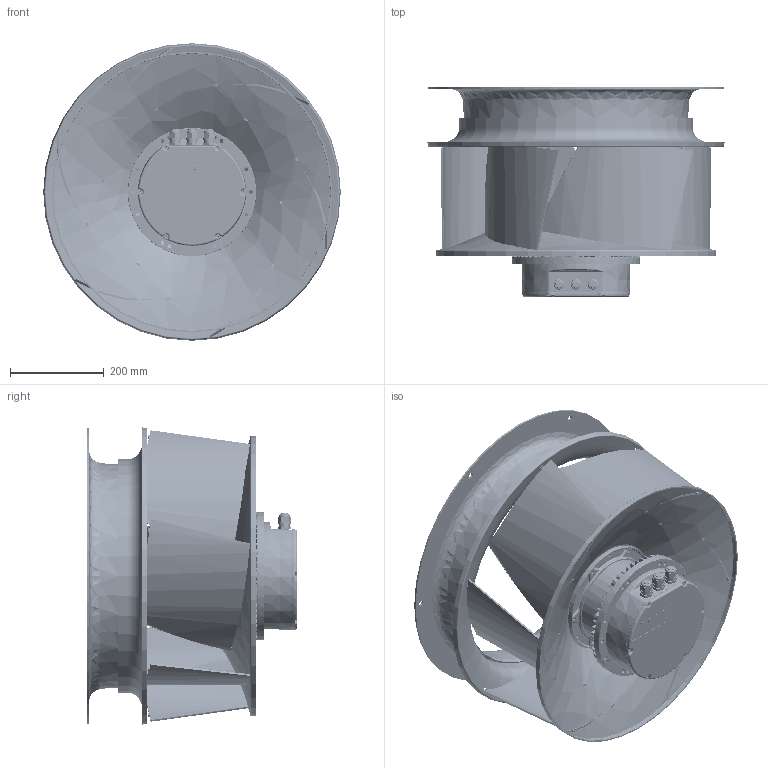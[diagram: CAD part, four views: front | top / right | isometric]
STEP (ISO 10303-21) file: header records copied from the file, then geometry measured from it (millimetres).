
FILE_DESCRIPTION((''),'2;1');
FILE_NAME('GTB063PUU38R_ASM','2023-09-15T13:34:33',('MINGHAN.CHUNG'),(''),'CREO PARAMETRIC BY PTC INC, 2018400','CREO PARAMETRIC BY PTC INC, 2018400','');
FILE_SCHEMA(('CONFIG_CONTROL_DESIGN'));
Products named in the file (17): BOTTOM_COVER__3145014400__02-35; BOTTOM_COVER__3145014400__02-57; NEW_OD150_PILLOW__3KW_-HEATSINK; SHAFT__-930001; SHAFT__-1050001; SHAFT__-1150001; G1__0001; __0001; NEW_OD150_PILLOW__3KW__G3-6-154; NEW_OD150_PILLOW__3KW__G3-6-172; NEW_OD150_PILLOW__3KW__G3-6-184; OD150-G2-CD_ASM; PRT0001; NOZZLE-FINAL; BLADE-FINAL; 630-R48-FINAL_ASM; GTB063PUU38R_ASM
Assembly tree (23 placements, depth 3):
  GTB063PUU38R_ASM
    OD150-G2-CD_ASM
      BOTTOM_COVER__3145014400__02-35
      BOTTOM_COVER__3145014400__02-57
      NEW_OD150_PILLOW__3KW_-HEATSINK
      SHAFT__-930001
      SHAFT__-1050001
      SHAFT__-1150001
      G1__0001
      __0001  x3
      NEW_OD150_PILLOW__3KW__G3-6-154
      NEW_OD150_PILLOW__3KW__G3-6-172
      NEW_OD150_PILLOW__3KW__G3-6-184
    630-R48-FINAL_ASM
      PRT0001
      NOZZLE-FINAL
      BLADE-FINAL  x6
Bounding box: 636.06 x 448.05 x 636.06 mm (x, y, z)
Volume: 5992784.4 mm3; surface area: 2959986.1 mm2
Topology: 22 solids, 23 shells, 7364 faces, 18786 edges, 11244 vertices
Faces by surface type: bspline 2101, cylinder 1391, torus 1294, plane 1141, cone 752, sphere 427, extrusion 246, revolution 12
Entity records: 443843 total; most frequent: CARTESIAN_POINT 283554, ORIENTED_EDGE 35848, DIRECTION 31758, EDGE_CURVE 17924, AXIS2_PLACEMENT_3D 13905, VERTEX_POINT 10944, CIRCLE 8964, EDGE_LOOP 7538
